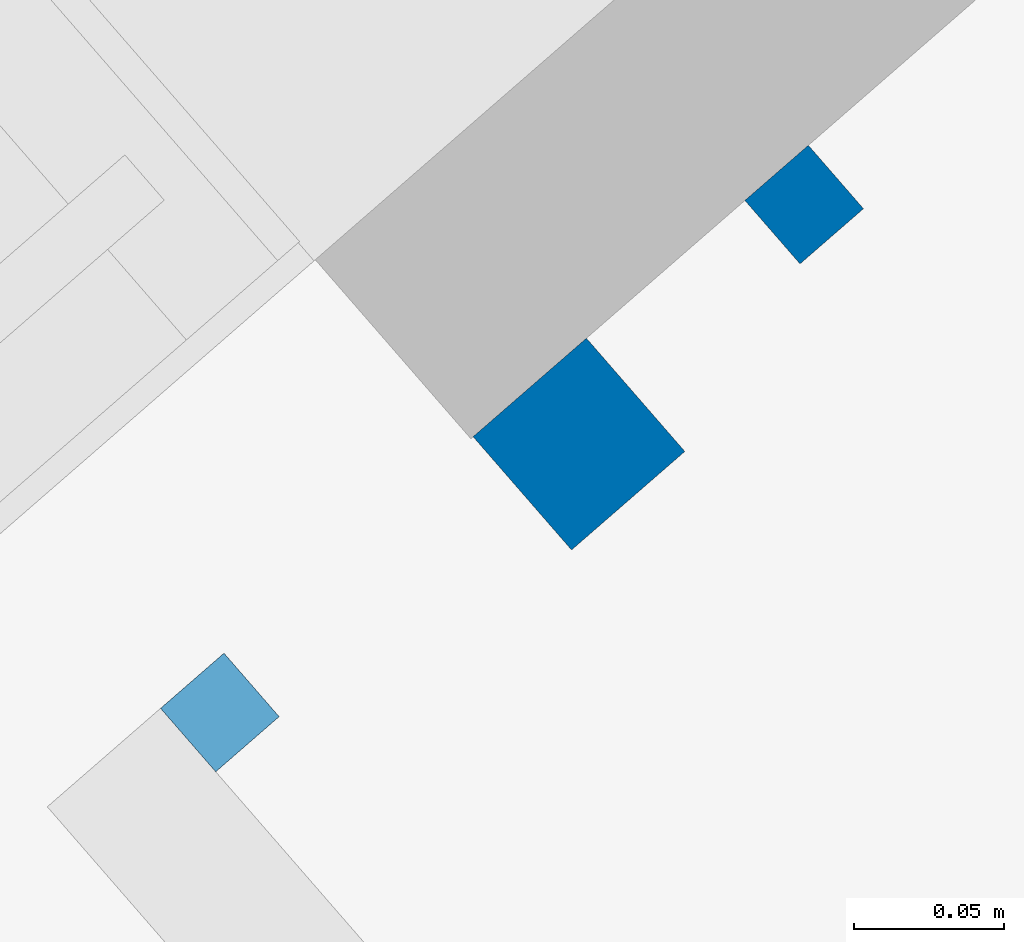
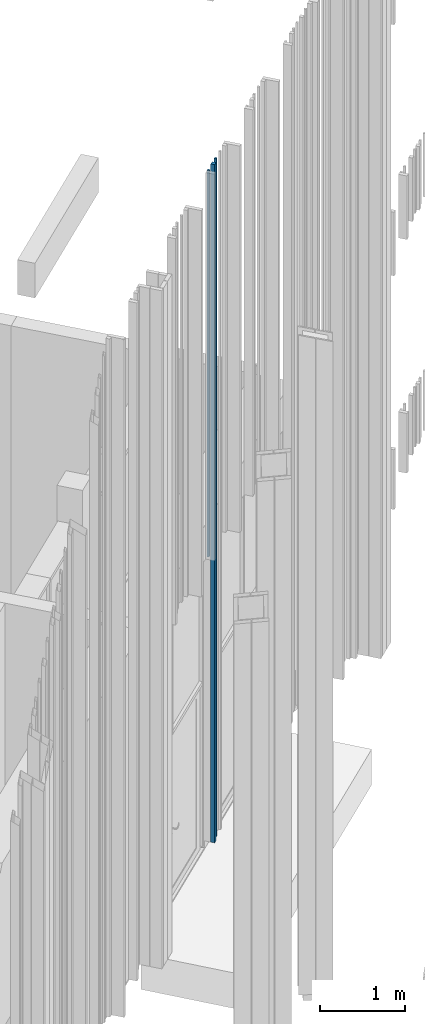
# One storey, part 205 of 390: 3 walls.
"""IFC2X3 building model written with IfcOpenShell, lengths in millimetres."""

from ifc_helpers import new_model, entity, si_unit, converted_unit, derived_unit, money_unit, direction, frame, origin_with_axes, place, context, subcontext, project, spatial, faceted_brep, material, type_object, element, save


model = new_model("IFC2X3")

# Units and contexts
model_context = context("Model", 3, precision=1e-05, world=origin_with_axes(), true_north=direction((0.0, 1.0)))
body_context = subcontext(model_context, "Body", "Model", "MODEL_VIEW")
ifc_project = project(units=[si_unit("LENGTHUNIT", "METRE", prefix="MILLI"), si_unit("AREAUNIT", "SQUARE_METRE"), si_unit("VOLUMEUNIT", "CUBIC_METRE"), converted_unit("PLANEANGLEUNIT", "DEGREE", entity("IfcPlaneAngleMeasure", 0.0174532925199), si_unit("PLANEANGLEUNIT", "RADIAN"), dimensions=[0, 0, 0, 0, 0, 0, 0]), si_unit("SOLIDANGLEUNIT", "STERADIAN"), money_unit("EUR"), converted_unit("TIMEUNIT", "Year", entity("IfcTimeMeasure", 31556926.0), si_unit("TIMEUNIT", "SECOND"), dimensions=[0, 0, 1, 0, 0, 0, 0]), si_unit("MASSUNIT", "GRAM", prefix="KILO"), si_unit("THERMODYNAMICTEMPERATUREUNIT", "DEGREE_CELSIUS"), si_unit("LUMINOUSINTENSITYUNIT", "LUMEN"), si_unit("ENERGYUNIT", "JOULE", prefix="MEGA"), derived_unit("THERMALCONDUCTANCEUNIT", [(si_unit("POWERUNIT", "WATT"), 1), (si_unit("LENGTHUNIT", "METRE"), -1), (si_unit("THERMODYNAMICTEMPERATUREUNIT", "KELVIN"), -1)]), derived_unit("SPECIFICHEATCAPACITYUNIT", [(si_unit("ENERGYUNIT", "JOULE"), 1), (si_unit("MASSUNIT", "GRAM", prefix="KILO"), -1), (si_unit("THERMODYNAMICTEMPERATUREUNIT", "KELVIN"), -1)]), derived_unit("MASSDENSITYUNIT", [(si_unit("MASSUNIT", "GRAM", prefix="KILO"), 1), (si_unit("VOLUMEUNIT", "CUBIC_METRE"), -1)])], contexts=[model_context])

# Site, building, storey
site_placement = place(None, origin_with_axes())
site = spatial("IfcSite", under=ifc_project, at=site_placement, Name="Site", CompositionType="ELEMENT")
building_placement = place(site_placement, origin_with_axes())
building = spatial("IfcBuilding", under=site, at=building_placement, Name="Building", CompositionType="ELEMENT")
storey_placement = place(building_placement, origin_with_axes())
storey = spatial("IfcBuildingStorey", under=building, at=storey_placement, Name="1 korrus", CompositionType="ELEMENT", Elevation=0.0)

# Walls
ifc_material = material(Name="Site specified")
wall_type = type_object("IfcWallType", Name="Puitfassaadi ribistik", PredefinedType="NOTDEFINED")
wall_1_placement = place(storey_placement, frame((146518.758898, 72012.0057471, 4300.0), z_axis=(0.0, 0.0, 1.0), x_axis=(-0.754709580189, -0.65605902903, 0.0)))
element("IfcWall", 1, at=wall_1_placement, inside=storey, type_object=wall_type, material=ifc_material, Name="Site specified", context=body_context, shape_type="Brep", body=[
    faceted_brep([(-14.0, -14.0, 5565.0), (-14.0, -14.0, 0.0), (14.0, -14.0, 0.0), (14.0, -14.0, 5565.0), (-14.0, 14.0, 5565.0), (-14.0, 14.0, 0.0), (14.0, 14.0, 0.0), (14.0, 14.0, 5565.0)], [[[0, 1, 2, 3]], [[4, 5, 1, 0]], [[2, 1, 5, 6]], [[3, 2, 6, 7]], [[4, 0, 3, 7]], [[7, 6, 5, 4]]]),
])
wall_2_placement = place(storey_placement, frame((146638.427275, 72101.4567371, 100.0), z_axis=(0.0, 0.0, 1.0), x_axis=(-0.754709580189, -0.65605902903, 0.0)))
element("IfcWall", 2, at=wall_2_placement, inside=storey, type_object=wall_type, material=ifc_material, Name="Site specified", context=body_context, shape_type="Brep", body=[
    faceted_brep([(-25.0, -25.0, 9765.0), (-25.0, -25.0, 0.0), (25.0, -25.0, 0.0), (25.0, -25.0, 9765.0), (-25.0, 25.0, 9765.0), (-25.0, 25.0, 0.0), (25.0, 25.0, 0.0), (25.0, 25.0, 9765.0)], [[[0, 1, 2, 3]], [[4, 5, 1, 0]], [[2, 1, 5, 6]], [[3, 2, 6, 7]], [[4, 0, 3, 7]], [[7, 6, 5, 4]]]),
])
wall_3_placement = place(storey_placement, frame((146713.47397, 72181.2689766, 100.0), z_axis=(0.0, 0.0, 1.0), x_axis=(-0.754709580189, -0.65605902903, 0.0)))
element("IfcWall", 3, at=wall_3_placement, inside=storey, type_object=wall_type, material=ifc_material, Name="Site specified", context=body_context, shape_type="Brep", body=[
    faceted_brep([(-14.0, -14.0, 9765.0), (-14.0, -14.0, 0.0), (14.0, -14.0, 0.0), (14.0, -14.0, 9765.0), (-14.0, 14.0, 9765.0), (-14.0, 14.0, 0.0), (14.0, 14.0, 0.0), (14.0, 14.0, 9765.0)], [[[0, 1, 2, 3]], [[4, 5, 1, 0]], [[2, 1, 5, 6]], [[3, 2, 6, 7]], [[4, 0, 3, 7]], [[7, 6, 5, 4]]]),
])

save(model, "model.ifc")
